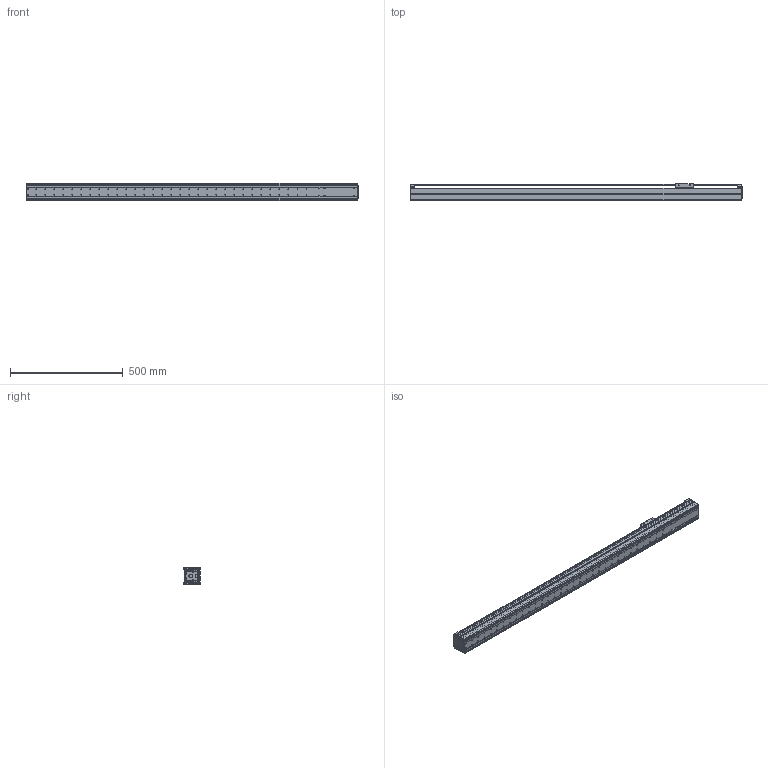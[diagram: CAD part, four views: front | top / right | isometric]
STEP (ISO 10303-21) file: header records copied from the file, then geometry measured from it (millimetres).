
FILE_DESCRIPTION((''),'2;1');
FILE_NAME('BE10E-ST-S_N-B5_IGS_PRT','2017-06-17T',(' '),(''),'PRO/ENGINEER BY PARAMETRIC TECHNOLOGY CORPORATION, 2015030','PRO/ENGINEER BY PARAMETRIC TECHNOLOGY CORPORATION, 2015030','');
FILE_SCHEMA(('CONFIG_CONTROL_DESIGN'));
Length unit declared in the file: millimetre
Products named in the file (1): BE10E-ST-S_N-B5_IGS_PRT
Bounding box: 1475 x 75 x 78 mm (x, y, z)
Volume: 1648507 mm3; surface area: 1083376.8 mm2
Topology: 2 solids, 99 shells, 1305 faces, 3525 edges, 2312 vertices
Faces by surface type: cylinder 690, plane 462, torus 64, sphere 42, cone 38, bspline 9
Entity records: 42726 total; most frequent: CARTESIAN_POINT 8981, DIRECTION 7332, ORIENTED_EDGE 6620, EDGE_CURVE 3501, AXIS2_PLACEMENT_3D 2812, VERTEX_POINT 2312, VECTOR 1708, LINE 1708
